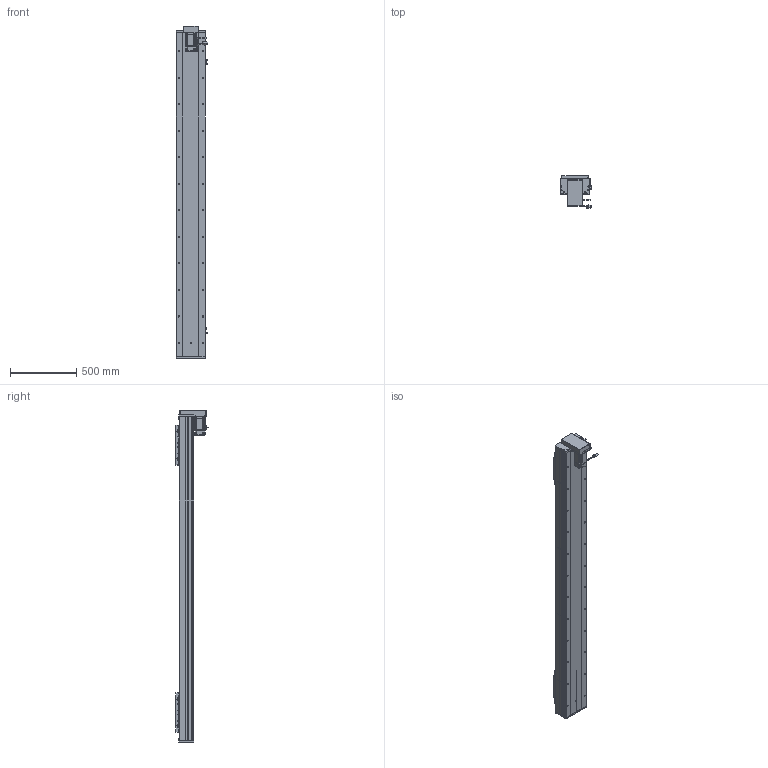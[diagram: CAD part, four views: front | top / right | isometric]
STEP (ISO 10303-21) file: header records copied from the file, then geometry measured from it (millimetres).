
FILE_DESCRIPTION (( 'STEP AP203' ), '1' );
FILE_NAME ('RY220F-L2525-800-BK-邧嶺.SLDASM_2000.step', '2022-08-06T08:08:41', ( '' ), ( '' ), 'SwSTEP 2.0', 'SolidWorks 2016', '' );
FILE_SCHEMA (( 'CONFIG_CONTROL_DESIGN' ));
Length unit declared in the file: millimetre
Products named in the file (15): RY220F-672覜茼んえ; RY220F臏賑釱25-32佪裝; RY220F-L2525-800-BK-邧嶺.SLDASM_2000; RY220F-詩湍揤踡輸; RY220F綴裔啣; RY220F-滅鳥奻裔; 怢湛750W_ECMA-CX0807ES; 覜茼ん672; 侐源滅袉蝶; RY220F-蛌殏奻裔啣-800_2000; 滅袉蝶18-24; RY220狟殏萇儂假蚾啣; RY220F-祥凄詩湍-蛌殏-800_2000; RY220F蛌殏菁釱-800-邧嶺_2000; RY220狟殏萇儂欶
Assembly tree (24 placements, depth 2):
  RY220F-L2525-800-BK-邧嶺.SLDASM_2000
    RY220F蛌殏菁釱-800-邧嶺_2000
    RY220F-蛌殏奻裔啣-800_2000  x2
    怢湛750W_ECMA-CX0807ES
    RY220F臏賑釱25-32佪裝  x2
    RY220F-滅鳥奻裔  x2
    滅袉蝶18-24  x3
    RY220F綴裔啣
    RY220F-祥凄詩湍-蛌殏-800_2000
    RY220F-詩湍揤踡輸  x2
    覜茼ん672  x3
    RY220F-672覜茼んえ  x2
    侐源滅袉蝶  x2
    RY220狟殏萇儂假蚾啣
    RY220狟殏萇儂欶
Bounding box: 237.27 x 247.24 x 2503 mm (x, y, z)
Volume: 21200058.3 mm3; surface area: 5606989.7 mm2
Topology: 25 solids, 25 shells, 2927 faces, 7930 edges, 4867 vertices
Faces by surface type: cylinder 1318, plane 1062, cone 476, bspline 45, sphere 16, torus 10
Entity records: 72937 total; most frequent: CARTESIAN_POINT 19357, ORIENTED_EDGE 10778, DIRECTION 10625, EDGE_CURVE 5389, AXIS2_PLACEMENT_3D 3802, VERTEX_POINT 3483, VECTOR 3021, LINE 3021
